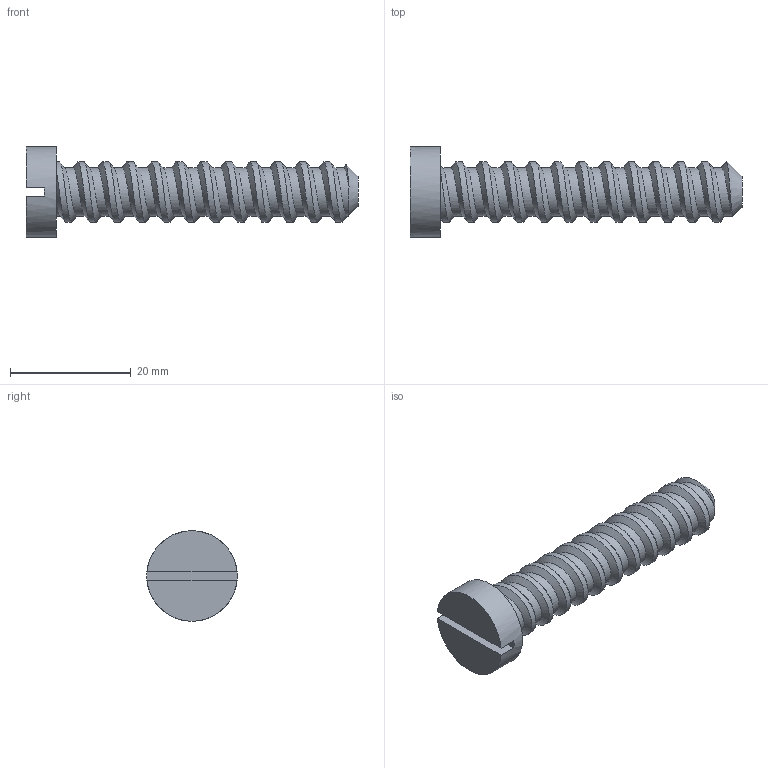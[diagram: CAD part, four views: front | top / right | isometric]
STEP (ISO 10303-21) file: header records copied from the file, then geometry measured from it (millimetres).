
FILE_DESCRIPTION(/* description */ ('STEP AP242 Edition 2','CAx-IF Rec.Pracs.---Representation and Presentation of Product Manufacturing Information (PMI)---4.0---2014-10-13','CAx-IF Rec.Pracs.---3D Tessellated Geometry---0.4---2014-09-14','2;1','CAx-IF Rec.Pracs.---User Defined Attributes---1.5---2016-08-15'),/* implementation_level */ '2;1');
FILE_NAME(/* name */ 'Assembly 1 - Screw 1',/* time_stamp */ '2026-06-23T19:13:03Z',/* author */ (''),/* organization */ (''),/* preprocessor_version */ 'ST-DEVELOPER v20',/* originating_system */ 'ONSHAPE BY PTC INC, 1.216',/* authorisation */ ' ');
FILE_SCHEMA (('AP242_MANAGED_MODEL_BASED_3D_ENGINEERING_MIM_LF { 1 0 10303 442 3 1 4 }'));
Length unit declared in the file: metre
Products named in the file (1): Screw 1
Bounding box: 55 x 15 x 15 mm (x, y, z)
Volume: 3869.9 mm3; surface area: 2336.1 mm2
Topology: 1 solids, 1 shells, 14 faces, 33 edges, 22 vertices
Faces by surface type: plane 8, bspline 3, cylinder 2, cone 1
Full cylindrical faces by diameter (mm): 15 x1
Entity records: 1946 total; most frequent: CARTESIAN_POINT 1649, ORIENTED_EDGE 58, DIRECTION 50, EDGE_CURVE 29, VERTEX_POINT 20, AXIS2_PLACEMENT_3D 20, EDGE_LOOP 17, FACE_BOUND 17
